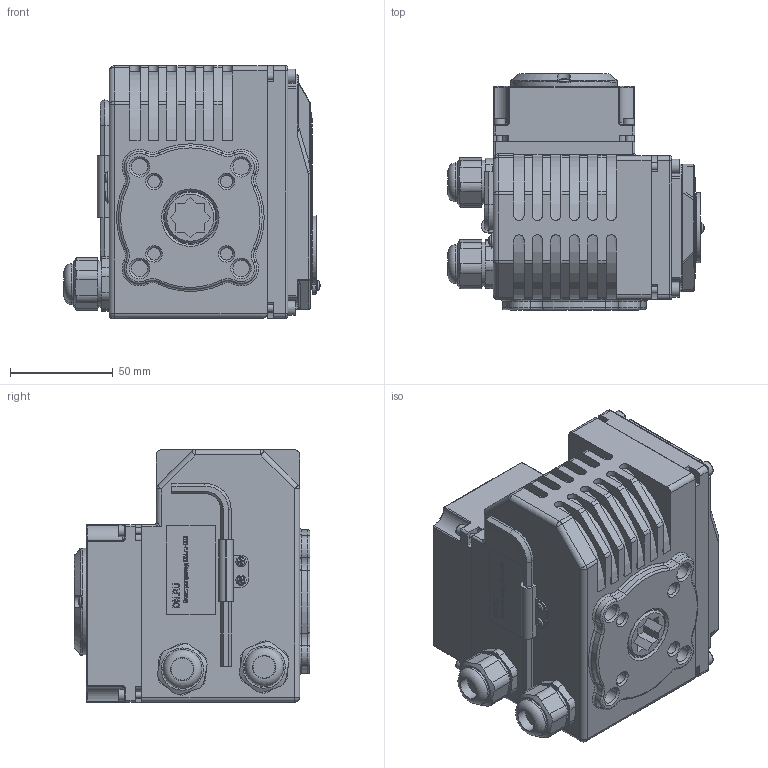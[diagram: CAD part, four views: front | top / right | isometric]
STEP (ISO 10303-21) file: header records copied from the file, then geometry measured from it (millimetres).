
FILE_DESCRIPTION(/* description */ ('D300-08218','CAx-IF Rec.Pracs.---Representation and Presentation of Product Manufacturing Information (PMI)---4.0---2014-10-13'),/* implementation_level */ '2;1');
FILE_NAME(/* name */ '',/* time_stamp */ '2026-04-01T01:07:20+03:00',/* author */ ('DN.RU'),/* organization */ ('DN.RU'),/* preprocessor_version */ 'ST-DEVELOPER v20',/* originating_system */ 'Autodesk Inventor 2025',/* authorisation */ '');
FILE_SCHEMA (('AP242_MANAGED_MODEL_BASED_3D_ENGINEERING_MIM_LF { 1 0 10303 442 1 1 4 }'));
Products named in the file (1): QT-N-003EM-O1-220VAC-У1 HARK
Bounding box: 124.81 x 115 x 123 mm (x, y, z)
Volume: 1030249.4 mm3; surface area: 102808.1 mm2
Topology: 1 solids, 1 shells, 1381 faces, 3668 edges, 2373 vertices
Faces by surface type: plane 633, bspline 277, cylinder 248, torus 101, cone 96, sphere 26
Full cylindrical faces by diameter (mm): 3 x4, 4 x4, 5.5 x4, 6 x4, 7 x4, 8 x4, 10.772 x2, 18.963 x2, 21.521 x2, 25 x1, 26 x1, 34.486 x1, 40 x1, 42.826 x1, 52 x1
Entity records: 47800 total; most frequent: CARTESIAN_POINT 13918, ORIENTED_EDGE 7294, DIRECTION 5920, EDGE_CURVE 3647, VERTEX_POINT 2373, AXIS2_PLACEMENT_3D 2014, LINE 1892, VECTOR 1892
